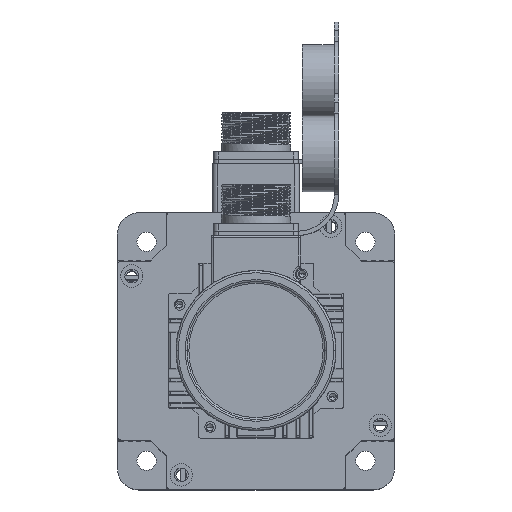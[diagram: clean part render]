
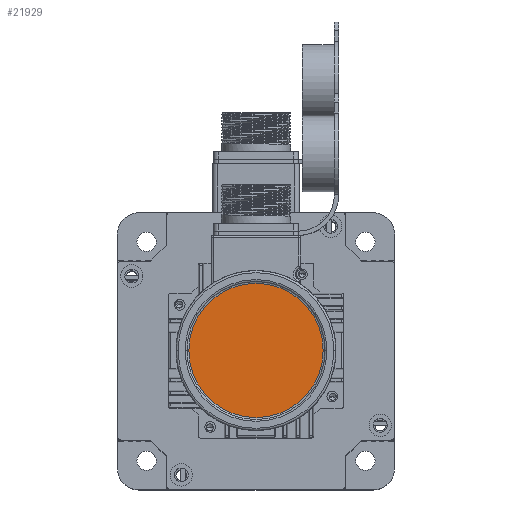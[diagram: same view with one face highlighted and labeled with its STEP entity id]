
A CAD part, top view. The second image highlights one B-rep face of the part: STEP entity #21929.
In plain terms, the highlighted planar face has unit normal (0, 0, 1) as drawn and (0, 0, -1) by its records, which use the part's own axes.
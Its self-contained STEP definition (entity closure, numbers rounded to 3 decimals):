
#1158 = ORIENTED_EDGE ( 'NONE', *, *, #49618, .T. ) ;
#3373 = AXIS2_PLACEMENT_3D ( 'NONE', #23689, #13174, #50420 ) ;
#5693 = AXIS2_PLACEMENT_3D ( 'NONE', #56380, #24482, #61740 ) ;
#7812 = PLANE ( 'NONE',  #3373 ) ;
#7846 = CARTESIAN_POINT ( 'NONE',  ( 31.5, 0., -41.5 ) ) ;
#10268 = CIRCLE ( 'NONE', #5693, 31.5 ) ;
#12471 = FACE_OUTER_BOUND ( 'NONE', #16181, .T. ) ;
#13174 = DIRECTION ( 'NONE',  ( 0., 0., -1. ) ) ;
#15072 = ORIENTED_EDGE ( 'NONE', *, *, #59115, .T. ) ;
#16181 = EDGE_LOOP ( 'NONE', ( #1158, #15072 ) ) ;
#17772 = CARTESIAN_POINT ( 'NONE',  ( -31.5, 0., -41.5 ) ) ;
#21929 = ADVANCED_FACE ( 'NONE', ( #12471 ), #7812, .T. ) ;
#23582 = CIRCLE ( 'NONE', #48518, 31.5 ) ;
#23689 = CARTESIAN_POINT ( 'NONE',  ( 0., 0., -41.5 ) ) ;
#24482 = DIRECTION ( 'NONE',  ( 0., 0., -1. ) ) ;
#26391 = DIRECTION ( 'NONE',  ( 0., 0., -1. ) ) ;
#29399 = VERTEX_POINT ( 'NONE', #17772 ) ;
#48518 = AXIS2_PLACEMENT_3D ( 'NONE', #58284, #26391, #63668 ) ;
#49618 = EDGE_CURVE ( 'NONE', #29399, #56793, #10268, .T. ) ;
#50420 = DIRECTION ( 'NONE',  ( -1., 0., 0. ) ) ;
#56380 = CARTESIAN_POINT ( 'NONE',  ( 0., 0., -41.5 ) ) ;
#56793 = VERTEX_POINT ( 'NONE', #7846 ) ;
#58284 = CARTESIAN_POINT ( 'NONE',  ( 0., 0., -41.5 ) ) ;
#59115 = EDGE_CURVE ( 'NONE', #56793, #29399, #23582, .T. ) ;
#61740 = DIRECTION ( 'NONE',  ( -1., 0., 0. ) ) ;
#63668 = DIRECTION ( 'NONE',  ( -1., 0., 0. ) ) ;
